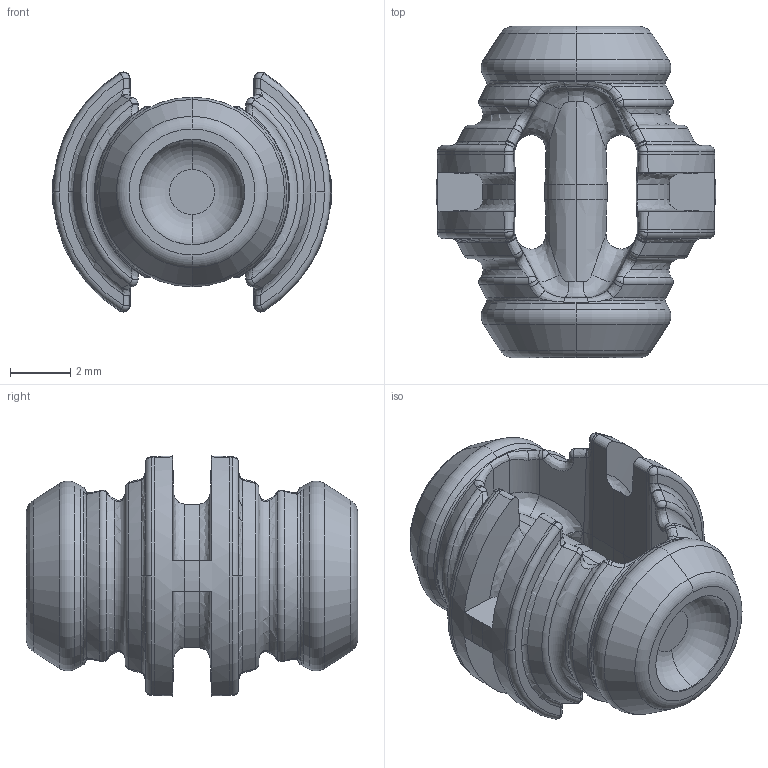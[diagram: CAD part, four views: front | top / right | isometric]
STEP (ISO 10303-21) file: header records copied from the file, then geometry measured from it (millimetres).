
FILE_DESCRIPTION (( 'STEP AP203' ), '1' );
FILE_NAME ('Diva Male 2,5mm_customer_.STEP', '2021-12-10T08:21:49', ( '' ), ( '' ), 'SwSTEP 2.0', 'SolidWorks 2020', '' );
FILE_SCHEMA (( 'CONFIG_CONTROL_DESIGN' ));
Length unit declared in the file: millimetre
Products named in the file (1): Diva Male 2,5mm_customer_
Bounding box: 9.26 x 11 x 7.97 mm (x, y, z)
Surface area: 448.1 mm2 (no closed solid volume)
Topology: 0 solids, 5 shells, 296 faces, 756 edges, 444 vertices
Faces by surface type: bspline 108, cone 62, torus 48, plane 32, sphere 28, cylinder 18
Entity records: 11788 total; most frequent: CARTESIAN_POINT 5820, ORIENTED_EDGE 1380, DIRECTION 1042, EDGE_CURVE 708, AXIS2_PLACEMENT_3D 473, VERTEX_POINT 412, B_SPLINE_CURVE_WITH_KNOTS 308, EDGE_LOOP 298
